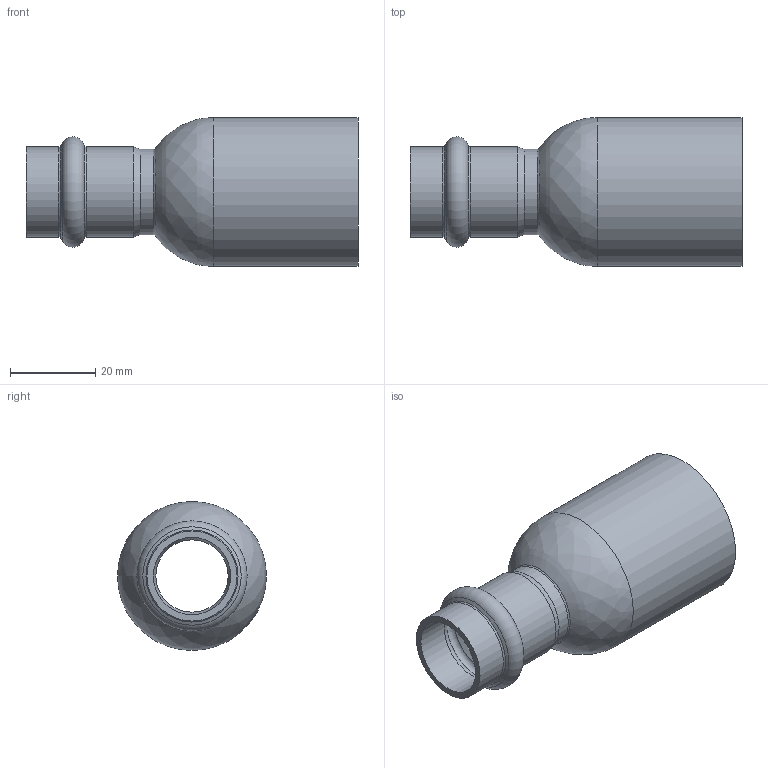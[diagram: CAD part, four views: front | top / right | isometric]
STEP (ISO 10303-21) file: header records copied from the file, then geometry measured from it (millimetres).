
FILE_DESCRIPTION((''),'2;1');
FILE_NAME('G:\Technics\CAD\Bauteile\035\692433518(2).stp','2008-03-03T09:40:28',('herberg'),(''),'Autodesk Inventor 2008','Autodesk Inventor 2008','');
FILE_SCHEMA(('AUTOMOTIVE_DESIGN { 1 0 10303 214 1 1 1 1 }'));
Length unit declared in the file: millimetre
Products named in the file (1): 692433518(2)
Bounding box: 78 x 35 x 35 mm (x, y, z)
Volume: 10613.1 mm3; surface area: 14400.8 mm2
Topology: 1 solids, 1 shells, 24 faces, 50 edges, 28 vertices
Faces by surface type: cylinder 8, bspline 8, cone 4, torus 2, plane 2
Full cylindrical faces by diameter (mm): 17 x1, 18.15 x2, 20 x1, 21.15 x2, 32 x1, 35 x1
Entity records: 798 total; most frequent: CARTESIAN_POINT 389, DIRECTION 82, ORIENTED_EDGE 48, EDGE_LOOP 48, AXIS2_PLACEMENT_3D 41, VERTEX_POINT 24, CIRCLE 24, EDGE_CURVE 24
